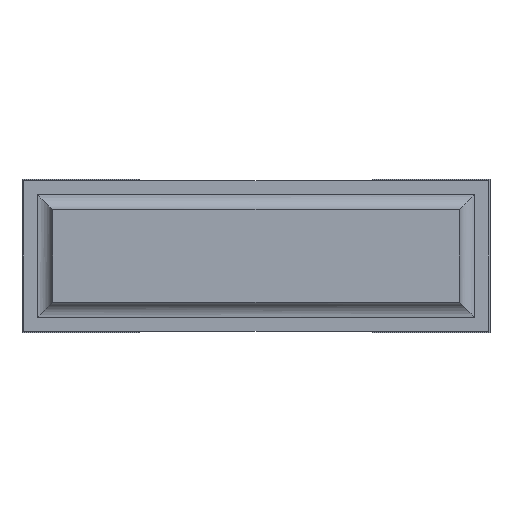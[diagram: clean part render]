
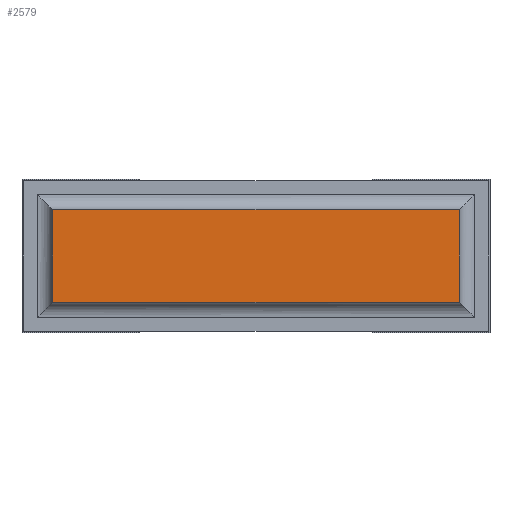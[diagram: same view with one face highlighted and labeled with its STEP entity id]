
A CAD part, front view. The second image highlights one B-rep face of the part: STEP entity #2579.
In plain terms, the highlighted planar face has unit normal (0, -1, 0).
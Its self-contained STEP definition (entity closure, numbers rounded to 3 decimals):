
#141=FACE_OUTER_BOUND('',#301,.T.);
#301=EDGE_LOOP('',(#1863,#1864,#1865,#1866));
#498=LINE('',#3790,#830);
#504=LINE('',#3806,#836);
#507=LINE('',#3815,#839);
#509=LINE('',#3819,#841);
#830=VECTOR('',#3056,10.);
#836=VECTOR('',#3070,10.);
#839=VECTOR('',#3085,10.);
#841=VECTOR('',#3091,10.);
#1143=VERTEX_POINT('',#3787);
#1144=VERTEX_POINT('',#3789);
#1148=VERTEX_POINT('',#3800);
#1150=VERTEX_POINT('',#3804);
#1398=EDGE_CURVE('',#1144,#1143,#498,.T.);
#1406=EDGE_CURVE('',#1148,#1150,#504,.T.);
#1411=EDGE_CURVE('',#1143,#1148,#507,.T.);
#1413=EDGE_CURVE('',#1150,#1144,#509,.T.);
#1863=ORIENTED_EDGE('',*,*,#1398,.T.);
#1864=ORIENTED_EDGE('',*,*,#1411,.T.);
#1865=ORIENTED_EDGE('',*,*,#1406,.T.);
#1866=ORIENTED_EDGE('',*,*,#1413,.T.);
#2445=PLANE('',#2773);
#2579=ADVANCED_FACE('',(#141),#2445,.T.);
#2773=AXIS2_PLACEMENT_3D('',#3822,#3095,#3096);
#3056=DIRECTION('',(0.,0.,-1.));
#3070=DIRECTION('',(0.,0.,1.));
#3085=DIRECTION('',(1.,0.,0.));
#3091=DIRECTION('',(-1.,0.,0.));
#3095=DIRECTION('center_axis',(0.,-1.,0.));
#3096=DIRECTION('ref_axis',(0.,0.,-1.));
#3787=CARTESIAN_POINT('',(0.1,0.,0.1));
#3789=CARTESIAN_POINT('',(0.1,0.,0.4));
#3790=CARTESIAN_POINT('',(0.1,0.,0.4));
#3800=CARTESIAN_POINT('',(1.42,0.,0.1));
#3804=CARTESIAN_POINT('',(1.42,0.,0.4));
#3806=CARTESIAN_POINT('',(1.42,0.,0.1));
#3815=CARTESIAN_POINT('',(0.1,0.,0.1));
#3819=CARTESIAN_POINT('',(1.42,0.,0.4));
#3822=CARTESIAN_POINT('Origin',(0.1,0.,0.25));
